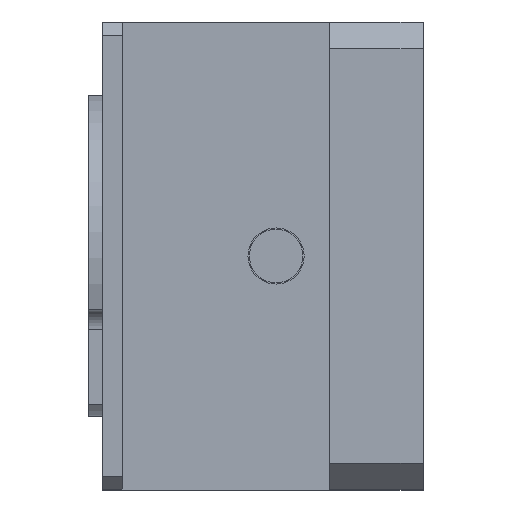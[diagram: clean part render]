
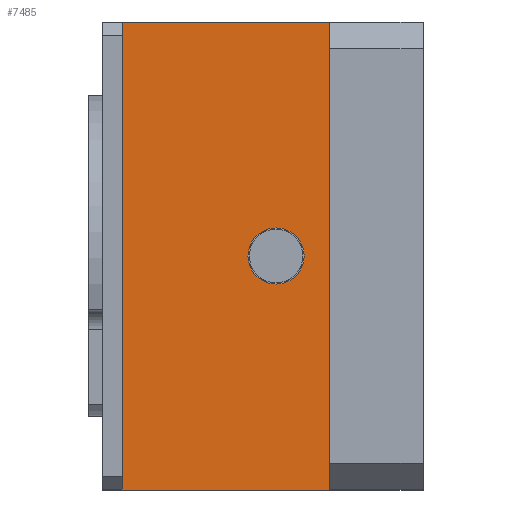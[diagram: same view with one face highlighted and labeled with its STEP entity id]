
A CAD part, left-side view. The second image highlights one B-rep face of the part: STEP entity #7485.
In plain terms, the highlighted planar face has unit normal (-1, 0, 0).
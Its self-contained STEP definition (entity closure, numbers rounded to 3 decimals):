
#33 = EDGE_CURVE ( 'NONE', #2275, #15013, #7776, .T. ) ;
#204 = VERTEX_POINT ( 'NONE', #347 ) ;
#251 = EDGE_LOOP ( 'NONE', ( #9922, #4075 ) ) ;
#347 = CARTESIAN_POINT ( 'NONE',  ( -43.038, 13.82, 13.548 ) ) ;
#435 = VERTEX_POINT ( 'NONE', #4701 ) ;
#1180 = FACE_BOUND ( 'NONE', #251, .T. ) ;
#1420 = VECTOR ( 'NONE', #8773, 1000. ) ;
#1667 = VERTEX_POINT ( 'NONE', #10910 ) ;
#1967 = AXIS2_PLACEMENT_3D ( 'NONE', #11867, #14221, #10639 ) ;
#2013 = EDGE_CURVE ( 'NONE', #15013, #2275, #8255, .T. ) ;
#2019 = CARTESIAN_POINT ( 'NONE',  ( -43.038, 13.82, -36.2 ) ) ;
#2275 = VERTEX_POINT ( 'NONE', #12525 ) ;
#2403 = CARTESIAN_POINT ( 'NONE',  ( -43.038, 29.32, -21.452 ) ) ;
#2590 = CARTESIAN_POINT ( 'NONE',  ( -43.038, 29.32, 13.548 ) ) ;
#3611 = ORIENTED_EDGE ( 'NONE', *, *, #4864, .T. ) ;
#3685 = CARTESIAN_POINT ( 'NONE',  ( -43.038, 13.82, -21.452 ) ) ;
#4075 = ORIENTED_EDGE ( 'NONE', *, *, #33, .F. ) ;
#4267 = PLANE ( 'NONE',  #9762 ) ;
#4382 = CARTESIAN_POINT ( 'NONE',  ( -43.038, 17.82, -1.852 ) ) ;
#4417 = DIRECTION ( 'NONE',  ( 0., 0., -1. ) ) ;
#4701 = CARTESIAN_POINT ( 'NONE',  ( -43.038, 29.32, -21.452 ) ) ;
#4848 = DIRECTION ( 'NONE',  ( 0., 1., 0. ) ) ;
#4864 = EDGE_CURVE ( 'NONE', #435, #8100, #12507, .T. ) ;
#4938 = CARTESIAN_POINT ( 'NONE',  ( -43.038, 17.82, -3.952 ) ) ;
#4982 = LINE ( 'NONE', #11285, #10918 ) ;
#5565 = VECTOR ( 'NONE', #4848, 1000. ) ;
#5741 = DIRECTION ( 'NONE',  ( -1., 0., 0. ) ) ;
#6716 = ORIENTED_EDGE ( 'NONE', *, *, #7501, .F. ) ;
#7485 = ADVANCED_FACE ( 'NONE', ( #7871, #1180 ), #4267, .F. ) ;
#7501 = EDGE_CURVE ( 'NONE', #435, #1667, #8985, .T. ) ;
#7776 = CIRCLE ( 'NONE', #1967, 2.1 ) ;
#7871 = FACE_OUTER_BOUND ( 'NONE', #14948, .T. ) ;
#8100 = VERTEX_POINT ( 'NONE', #3685 ) ;
#8255 = CIRCLE ( 'NONE', #12865, 2.1 ) ;
#8546 = EDGE_CURVE ( 'NONE', #204, #1667, #14997, .T. ) ;
#8773 = DIRECTION ( 'NONE',  ( 0., -1., 0. ) ) ;
#8985 = LINE ( 'NONE', #9050, #13204 ) ;
#9050 = CARTESIAN_POINT ( 'NONE',  ( -43.038, 29.32, -3.952 ) ) ;
#9260 = ORIENTED_EDGE ( 'NONE', *, *, #8546, .T. ) ;
#9336 = DIRECTION ( 'NONE',  ( 0., 0., 1. ) ) ;
#9762 = AXIS2_PLACEMENT_3D ( 'NONE', #2019, #11386, #4417 ) ;
#9871 = DIRECTION ( 'NONE',  ( 0., 0., -1. ) ) ;
#9922 = ORIENTED_EDGE ( 'NONE', *, *, #2013, .F. ) ;
#10176 = EDGE_CURVE ( 'NONE', #204, #8100, #4982, .T. ) ;
#10193 = DIRECTION ( 'NONE',  ( 0., 0., 1. ) ) ;
#10639 = DIRECTION ( 'NONE',  ( 0., 0., 1. ) ) ;
#10910 = CARTESIAN_POINT ( 'NONE',  ( -43.038, 29.32, 13.548 ) ) ;
#10918 = VECTOR ( 'NONE', #9871, 1000. ) ;
#11285 = CARTESIAN_POINT ( 'NONE',  ( -43.038, 13.82, -36.2 ) ) ;
#11386 = DIRECTION ( 'NONE',  ( 1., 0., 0. ) ) ;
#11867 = CARTESIAN_POINT ( 'NONE',  ( -43.038, 17.82, -3.952 ) ) ;
#12507 = LINE ( 'NONE', #2403, #1420 ) ;
#12525 = CARTESIAN_POINT ( 'NONE',  ( -43.038, 17.82, -6.052 ) ) ;
#12865 = AXIS2_PLACEMENT_3D ( 'NONE', #4938, #5741, #9336 ) ;
#13204 = VECTOR ( 'NONE', #10193, 1000. ) ;
#13711 = ORIENTED_EDGE ( 'NONE', *, *, #10176, .F. ) ;
#14221 = DIRECTION ( 'NONE',  ( -1., 0., 0. ) ) ;
#14948 = EDGE_LOOP ( 'NONE', ( #9260, #6716, #3611, #13711 ) ) ;
#14997 = LINE ( 'NONE', #2590, #5565 ) ;
#15013 = VERTEX_POINT ( 'NONE', #4382 ) ;
